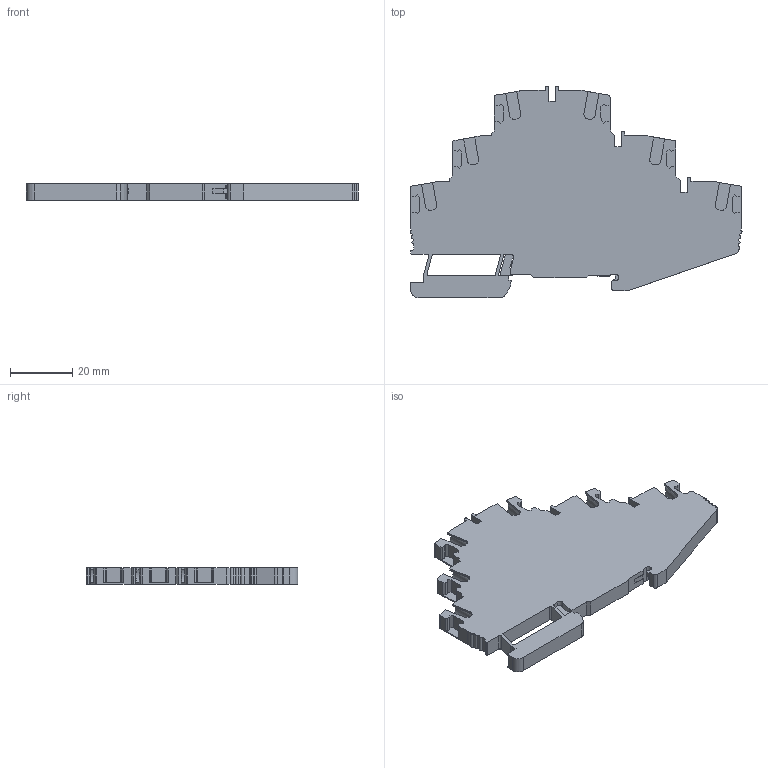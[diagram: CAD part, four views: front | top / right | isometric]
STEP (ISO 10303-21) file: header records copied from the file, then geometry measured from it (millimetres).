
FILE_DESCRIPTION(('Creo Elements/Direct Modeling STEP Export'),'2;1');
FILE_NAME('EFTE.2.stp','2018-11-09T 9:15:17',(''),(''),'Creo Elements/Direct Modeling STEP processor for AP214 (Solid Model)','Creo Elements/Direct Modeling 20.1 10-Mar-2018 (C) Parametric Technology GmbH','');
FILE_SCHEMA(('AUTOMOTIVE_DESIGN { 1 0 10303 214 1 1 1 1 }'));
Length unit declared in the file: millimetre
Products named in the file (1): EFTE.2
Bounding box: 106.56 x 67.9 x 5.2 mm (x, y, z)
Volume: 22812.9 mm3; surface area: 12956.6 mm2
Topology: 1 solids, 1 shells, 413 faces, 1202 edges, 802 vertices
Faces by surface type: plane 311, cylinder 102
Entity records: 14160 total; most frequent: ORIENTED_EDGE 2404, CARTESIAN_POINT 2376, DIRECTION 2178, EDGE_CURVE 1202, VECTOR 970, LINE 970, VERTEX_POINT 802, AXIS2_PLACEMENT_3D 604
